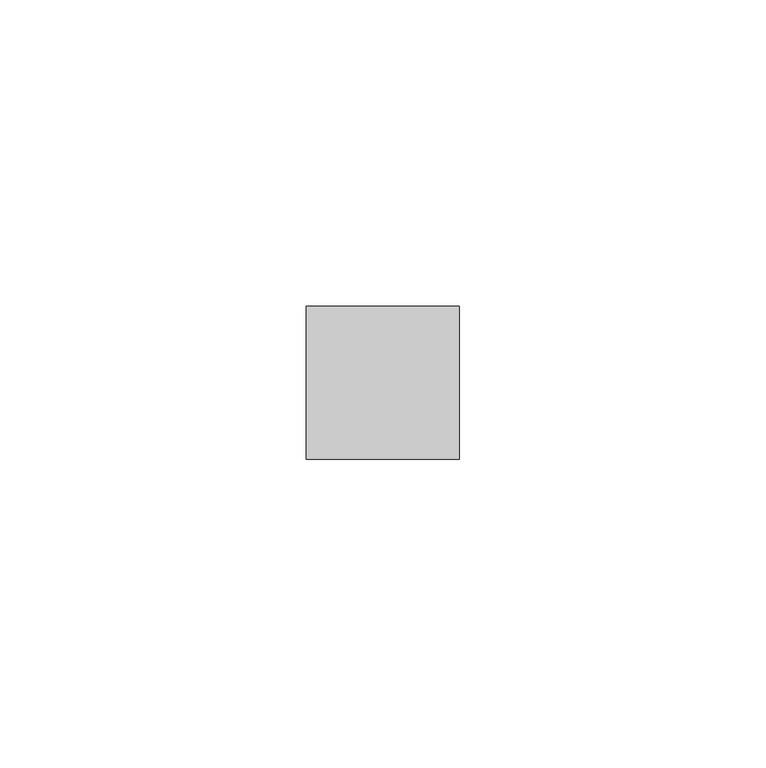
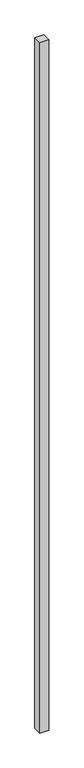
"""IFC4 building model written with IfcOpenShell, lengths in millimetres: member geometry, Obdélníková příčel : VERTI AERO."""

from ifc_helpers import new_model, si_unit, frame, origin, place, context, project, spatial, polyline, outline, extrude, source, transform, mapped, element, save


def member_44fbd9ab(model_context):
    return source(origin(), model_context, "Body", "SweptSolid", [
        extrude(outline(polyline([(-25.0, 12.5), (0.0, 12.5), (0.0, -12.5), (-25.0, -12.5), (-25.0, 12.5)])), frame((0.0, 0.0, -2075.0), z_axis=(0.0, 0.0, 1.0), x_axis=(1.0, 0.0, 0.0)), (0.0, 0.0, 1.0), 2075.0),
    ])


if __name__ == "__main__":
    model = new_model("IFC4")
    model_context = context("Model", 3, world=origin())
    ifc_project = project(units=[si_unit("LENGTHUNIT", "METRE", prefix="MILLI")], contexts=[model_context])
    site = spatial("IfcSite", under=ifc_project)
    building = spatial("IfcBuilding", under=site)
    placement = place(None, origin())
    member_shape = member_44fbd9ab(model_context)
    element("IfcMember", 1, ObjectType="Obdélníková příčel : VERTI AERO", at=placement, inside=building, context=model_context, shape_type="MappedRepresentation", body=[
        mapped(member_shape, transform((0.0, 0.0, 0.0), x_axis=(1.0, 0.0, 0.0), y_axis=(0.0, 1.0, 0.0), z_axis=(0.0, 0.0, 1.0))),
    ])
    save(model, "model.ifc")
